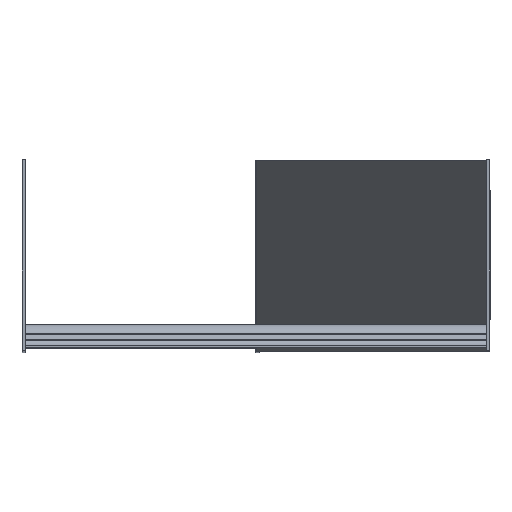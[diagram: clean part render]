
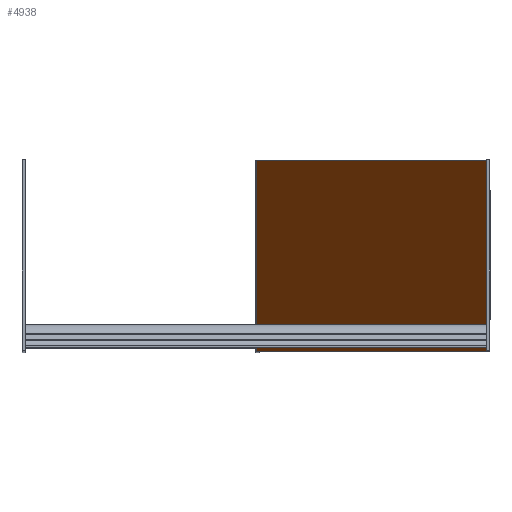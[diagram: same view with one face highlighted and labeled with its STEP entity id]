
A CAD part, top view. The second image highlights one B-rep face of the part: STEP entity #4938.
In plain terms, the highlighted planar face has unit normal (-0.881, 0, 0.472).
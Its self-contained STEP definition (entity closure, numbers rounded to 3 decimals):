
#96 = VERTEX_POINT ( 'NONE', #7175 ) ;
#120 = CARTESIAN_POINT ( 'NONE',  ( 225., 124., 0. ) ) ;
#283 = DIRECTION ( 'NONE',  ( -0.881, 0., 0.472 ) ) ;
#302 = VECTOR ( 'NONE', #6344, 1000. ) ;
#467 = CARTESIAN_POINT ( 'NONE',  ( 75.415, 0., -279.226 ) ) ;
#894 = VECTOR ( 'NONE', #3215, 1000. ) ;
#1103 = VERTEX_POINT ( 'NONE', #4515 ) ;
#1548 = CARTESIAN_POINT ( 'NONE',  ( 75.415, 124., -279.226 ) ) ;
#1749 = VERTEX_POINT ( 'NONE', #467 ) ;
#1851 = DIRECTION ( 'NONE',  ( -0.472, 0., -0.881 ) ) ;
#2108 = ORIENTED_EDGE ( 'NONE', *, *, #2908, .T. ) ;
#2908 = EDGE_CURVE ( 'NONE', #1103, #96, #4120, .T. ) ;
#3155 = EDGE_LOOP ( 'NONE', ( #5265, #6999, #2108, #6225 ) ) ;
#3215 = DIRECTION ( 'NONE',  ( 0., 1., 0. ) ) ;
#3480 = EDGE_CURVE ( 'NONE', #1103, #1749, #6425, .T. ) ;
#4120 = LINE ( 'NONE', #4559, #8141 ) ;
#4143 = DIRECTION ( 'NONE',  ( 0.472, 0., 0.881 ) ) ;
#4251 = CARTESIAN_POINT ( 'NONE',  ( 225., 124., 0. ) ) ;
#4515 = CARTESIAN_POINT ( 'NONE',  ( 224.822, 0., -0.332 ) ) ;
#4559 = CARTESIAN_POINT ( 'NONE',  ( 224.822, 0., -0.332 ) ) ;
#4775 = VECTOR ( 'NONE', #1851, 1000. ) ;
#4938 = ADVANCED_FACE ( 'NONE', ( #6042 ), #7214, .T. ) ;
#5114 = CARTESIAN_POINT ( 'NONE',  ( 225., 0., 0. ) ) ;
#5265 = ORIENTED_EDGE ( 'NONE', *, *, #6117, .F. ) ;
#5455 = AXIS2_PLACEMENT_3D ( 'NONE', #120, #283, #4143 ) ;
#5673 = LINE ( 'NONE', #4251, #4775 ) ;
#5698 = EDGE_CURVE ( 'NONE', #96, #5836, #5673, .T. ) ;
#5836 = VERTEX_POINT ( 'NONE', #1548 ) ;
#6042 = FACE_OUTER_BOUND ( 'NONE', #3155, .T. ) ;
#6061 = DIRECTION ( 'NONE',  ( 0., 1., 0. ) ) ;
#6117 = EDGE_CURVE ( 'NONE', #1749, #5836, #6421, .T. ) ;
#6225 = ORIENTED_EDGE ( 'NONE', *, *, #5698, .T. ) ;
#6344 = DIRECTION ( 'NONE',  ( -0.472, 0., -0.881 ) ) ;
#6381 = CARTESIAN_POINT ( 'NONE',  ( 75.415, 0., -279.226 ) ) ;
#6421 = LINE ( 'NONE', #6381, #894 ) ;
#6425 = LINE ( 'NONE', #5114, #302 ) ;
#6999 = ORIENTED_EDGE ( 'NONE', *, *, #3480, .F. ) ;
#7175 = CARTESIAN_POINT ( 'NONE',  ( 224.822, 124., -0.332 ) ) ;
#7214 = PLANE ( 'NONE',  #5455 ) ;
#8141 = VECTOR ( 'NONE', #6061, 1000. ) ;
